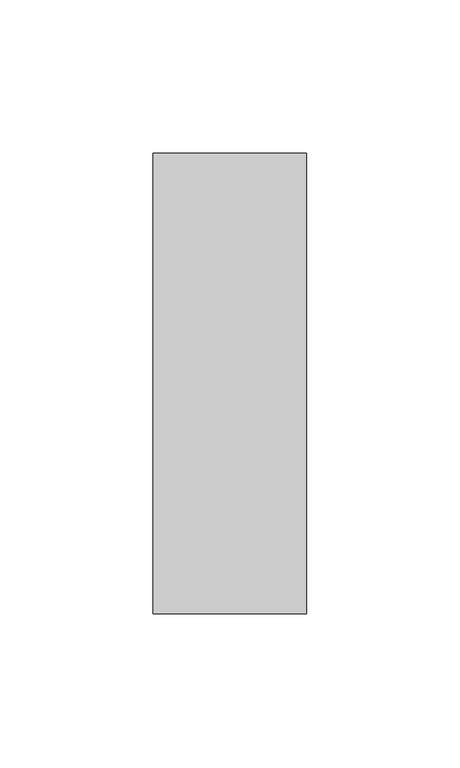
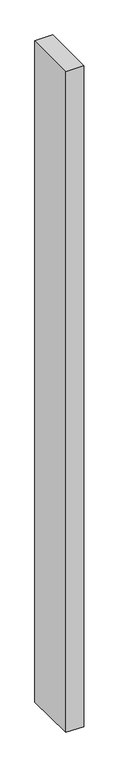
"""IFC4 building model written with IfcOpenShell, lengths in millimetres: member geometry, Прямоугольный импост : 50 x 150 мм."""

from ifc_helpers import new_model, si_unit, origin, place, context, project, spatial, faceted_brep, source, transform, mapped, element, save


def member_43508c97(model_context):
    return source(origin(), model_context, "Body", "Brep", [
        faceted_brep([(-25.0, 75.0, -0.1501139), (25.0, 75.0, 0.3428191), (25.0, 75.0, -1954.5758092), (-25.0, 75.0, -1954.1300747), (-25.0, -75.0, -0.3428191), (-25.0, -75.0, -1952.5622042), (25.0, -75.0, 0.1501139), (25.0, -75.0, -1953.0079387)], [[[0, 1, 2, 3]], [[4, 0, 3, 5]], [[6, 4, 5, 7]], [[1, 6, 7, 2]], [[1, 0, 4, 6]], [[2, 7, 5, 3]]]),
    ])


if __name__ == "__main__":
    model = new_model("IFC4")
    model_context = context("Model", 3, world=origin())
    ifc_project = project(units=[si_unit("LENGTHUNIT", "METRE", prefix="MILLI")], contexts=[model_context])
    site = spatial("IfcSite", under=ifc_project)
    building = spatial("IfcBuilding", under=site)
    placement = place(None, origin())
    member_shape = member_43508c97(model_context)
    element("IfcMember", 1, ObjectType="Прямоугольный импост : 50 x 150 мм", at=placement, inside=building, context=model_context, shape_type="MappedRepresentation", body=[
        mapped(member_shape, transform((0.0, 0.0, 0.0), x_axis=(1.0, 0.0, 0.0), y_axis=(0.0, 1.0, 0.0), z_axis=(0.0, 0.0, 1.0))),
    ])
    save(model, "model.ifc")
